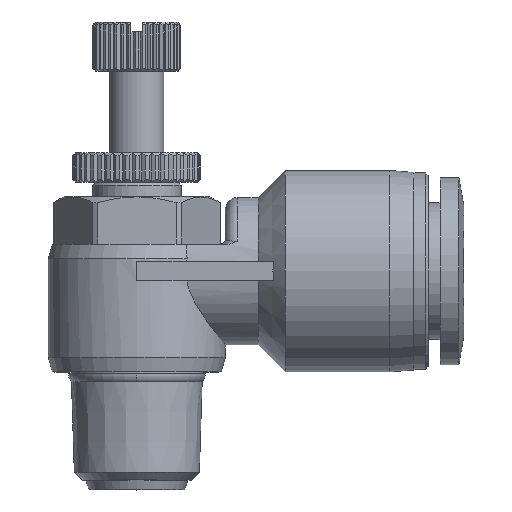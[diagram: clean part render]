
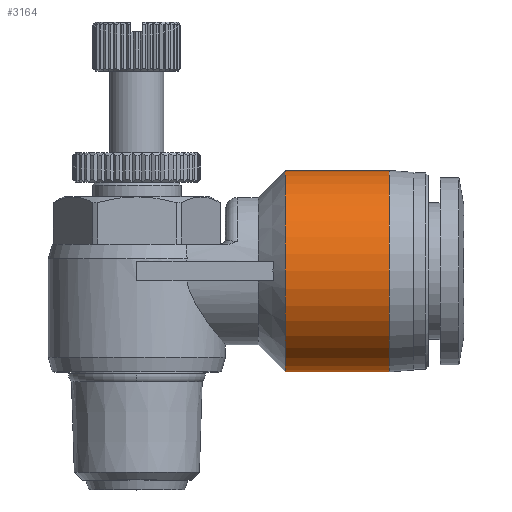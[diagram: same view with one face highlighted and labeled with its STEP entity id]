
A CAD part, top view. The second image highlights one B-rep face of the part: STEP entity #3164.
In plain terms, the highlighted cylindrical face has radius 10.25 mm (diameter 20.5 mm), a partial arc.
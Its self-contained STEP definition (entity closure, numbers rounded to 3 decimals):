
#13 = VECTOR ( 'NONE', #9836, 1000. ) ;
#242 = DIRECTION ( 'NONE',  ( -1., 0., 0. ) ) ;
#861 = CARTESIAN_POINT ( 'NONE',  ( 25.7, 11., 0. ) ) ;
#1277 = DIRECTION ( 'NONE',  ( 0., -1., 0. ) ) ;
#1444 = AXIS2_PLACEMENT_3D ( 'NONE', #1959, #9750, #2941 ) ;
#1959 = CARTESIAN_POINT ( 'NONE',  ( 20.4, 21.25, 0. ) ) ;
#2094 = VERTEX_POINT ( 'NONE', #9461 ) ;
#2693 = DIRECTION ( 'NONE',  ( -1., 0., 0. ) ) ;
#2814 = CIRCLE ( 'NONE', #7980, 10.25 ) ;
#2941 = DIRECTION ( 'NONE',  ( 0., -1., 0. ) ) ;
#2962 = EDGE_LOOP ( 'NONE', ( #9301, #5273, #10775, #4185 ) ) ;
#3096 = AXIS2_PLACEMENT_3D ( 'NONE', #12369, #10174, #1277 ) ;
#3164 = ADVANCED_FACE ( 'NONE', ( #5010 ), #4944, .T. ) ;
#3426 = VERTEX_POINT ( 'NONE', #861 ) ;
#3740 = CARTESIAN_POINT ( 'NONE',  ( 20.4, 11., 0. ) ) ;
#4185 = ORIENTED_EDGE ( 'NONE', *, *, #6145, .F. ) ;
#4197 = VERTEX_POINT ( 'NONE', #6550 ) ;
#4944 = CYLINDRICAL_SURFACE ( 'NONE', #1444, 10.25 ) ;
#5010 = FACE_OUTER_BOUND ( 'NONE', #2962, .T. ) ;
#5273 = ORIENTED_EDGE ( 'NONE', *, *, #9544, .T. ) ;
#6145 = EDGE_CURVE ( 'NONE', #3426, #2094, #10666, .T. ) ;
#6550 = CARTESIAN_POINT ( 'NONE',  ( 25.7, 31.5, 0. ) ) ;
#6781 = LINE ( 'NONE', #10717, #11517 ) ;
#7184 = EDGE_CURVE ( 'NONE', #2094, #9662, #8676, .T. ) ;
#7980 = AXIS2_PLACEMENT_3D ( 'NONE', #8035, #242, #9994 ) ;
#8035 = CARTESIAN_POINT ( 'NONE',  ( 25.7, 21.25, 0. ) ) ;
#8676 = CIRCLE ( 'NONE', #3096, 10.25 ) ;
#9301 = ORIENTED_EDGE ( 'NONE', *, *, #12395, .T. ) ;
#9461 = CARTESIAN_POINT ( 'NONE',  ( 15.1, 11., 0. ) ) ;
#9544 = EDGE_CURVE ( 'NONE', #4197, #9662, #6781, .T. ) ;
#9662 = VERTEX_POINT ( 'NONE', #9827 ) ;
#9750 = DIRECTION ( 'NONE',  ( -1., 0., 0. ) ) ;
#9827 = CARTESIAN_POINT ( 'NONE',  ( 15.1, 31.5, 0. ) ) ;
#9836 = DIRECTION ( 'NONE',  ( -1., 0., 0. ) ) ;
#9994 = DIRECTION ( 'NONE',  ( 0., -1., 0. ) ) ;
#10174 = DIRECTION ( 'NONE',  ( -1., 0., 0. ) ) ;
#10666 = LINE ( 'NONE', #3740, #13 ) ;
#10717 = CARTESIAN_POINT ( 'NONE',  ( 20.4, 31.5, 0. ) ) ;
#10775 = ORIENTED_EDGE ( 'NONE', *, *, #7184, .F. ) ;
#11517 = VECTOR ( 'NONE', #2693, 1000. ) ;
#12369 = CARTESIAN_POINT ( 'NONE',  ( 15.1, 21.25, 0. ) ) ;
#12395 = EDGE_CURVE ( 'NONE', #3426, #4197, #2814, .T. ) ;
